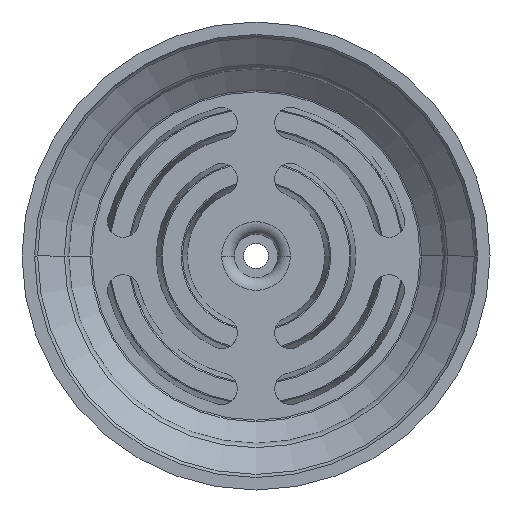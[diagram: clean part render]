
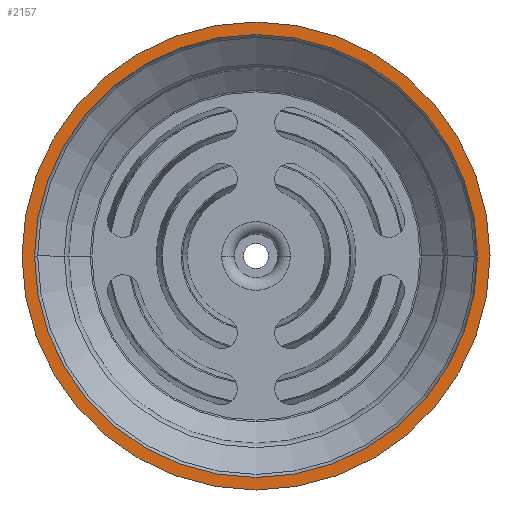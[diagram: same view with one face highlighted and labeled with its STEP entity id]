
A CAD part, front view. The second image highlights one B-rep face of the part: STEP entity #2157.
In plain terms, the highlighted planar face has unit normal (0, -1, 0).
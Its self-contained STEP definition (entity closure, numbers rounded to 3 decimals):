
#61 = CARTESIAN_POINT ( 'NONE',  ( 0., 0., 0. ) ) ;
#137 = CARTESIAN_POINT ( 'NONE',  ( 35.5, 0., 0. ) ) ;
#328 = DIRECTION ( 'NONE',  ( -1., 0., 0. ) ) ;
#336 = ORIENTED_EDGE ( 'NONE', *, *, #4885, .T. ) ;
#447 = CARTESIAN_POINT ( 'NONE',  ( 0., 0., 0. ) ) ;
#557 = CIRCLE ( 'NONE', #2463, 35.5 ) ;
#639 = EDGE_LOOP ( 'NONE', ( #1996, #336 ) ) ;
#747 = DIRECTION ( 'NONE',  ( -1., 0., 0. ) ) ;
#755 = PLANE ( 'NONE',  #4664 ) ;
#828 = FACE_BOUND ( 'NONE', #639, .T. ) ;
#833 = DIRECTION ( 'NONE',  ( 0., 1., 0. ) ) ;
#1304 = EDGE_CURVE ( 'NONE', #1960, #4452, #2111, .T. ) ;
#1813 = VERTEX_POINT ( 'NONE', #137 ) ;
#1824 = CIRCLE ( 'NONE', #3259, 37.5 ) ;
#1911 = VERTEX_POINT ( 'NONE', #3920 ) ;
#1960 = VERTEX_POINT ( 'NONE', #3329 ) ;
#1961 = DIRECTION ( 'NONE',  ( 0., 1., 0. ) ) ;
#1996 = ORIENTED_EDGE ( 'NONE', *, *, #3080, .T. ) ;
#2004 = AXIS2_PLACEMENT_3D ( 'NONE', #447, #1961, #4662 ) ;
#2111 = CIRCLE ( 'NONE', #3087, 37.5 ) ;
#2157 = ADVANCED_FACE ( 'NONE', ( #3102, #828 ), #755, .F. ) ;
#2255 = DIRECTION ( 'NONE',  ( -1., 0., 0. ) ) ;
#2363 = DIRECTION ( 'NONE',  ( -1., 0., 0. ) ) ;
#2463 = AXIS2_PLACEMENT_3D ( 'NONE', #4247, #833, #2255 ) ;
#2776 = EDGE_LOOP ( 'NONE', ( #4109, #4276 ) ) ;
#3080 = EDGE_CURVE ( 'NONE', #1911, #1813, #4568, .T. ) ;
#3087 = AXIS2_PLACEMENT_3D ( 'NONE', #3416, #4566, #747 ) ;
#3102 = FACE_OUTER_BOUND ( 'NONE', #2776, .T. ) ;
#3259 = AXIS2_PLACEMENT_3D ( 'NONE', #61, #4340, #2363 ) ;
#3329 = CARTESIAN_POINT ( 'NONE',  ( -37.5, 0., 0. ) ) ;
#3416 = CARTESIAN_POINT ( 'NONE',  ( 0., 0., 0. ) ) ;
#3637 = CARTESIAN_POINT ( 'NONE',  ( 37.5, 0., 0. ) ) ;
#3747 = CARTESIAN_POINT ( 'NONE',  ( 35.5, 0., 0. ) ) ;
#3920 = CARTESIAN_POINT ( 'NONE',  ( -35.5, 0., 0. ) ) ;
#4109 = ORIENTED_EDGE ( 'NONE', *, *, #1304, .F. ) ;
#4170 = EDGE_CURVE ( 'NONE', #4452, #1960, #1824, .T. ) ;
#4247 = CARTESIAN_POINT ( 'NONE',  ( 0., 0., 0. ) ) ;
#4276 = ORIENTED_EDGE ( 'NONE', *, *, #4170, .F. ) ;
#4340 = DIRECTION ( 'NONE',  ( 0., 1., 0. ) ) ;
#4452 = VERTEX_POINT ( 'NONE', #3637 ) ;
#4566 = DIRECTION ( 'NONE',  ( 0., 1., 0. ) ) ;
#4568 = CIRCLE ( 'NONE', #2004, 35.5 ) ;
#4574 = DIRECTION ( 'NONE',  ( 0., 1., 0. ) ) ;
#4662 = DIRECTION ( 'NONE',  ( -1., 0., 0. ) ) ;
#4664 = AXIS2_PLACEMENT_3D ( 'NONE', #3747, #4574, #328 ) ;
#4885 = EDGE_CURVE ( 'NONE', #1813, #1911, #557, .T. ) ;
